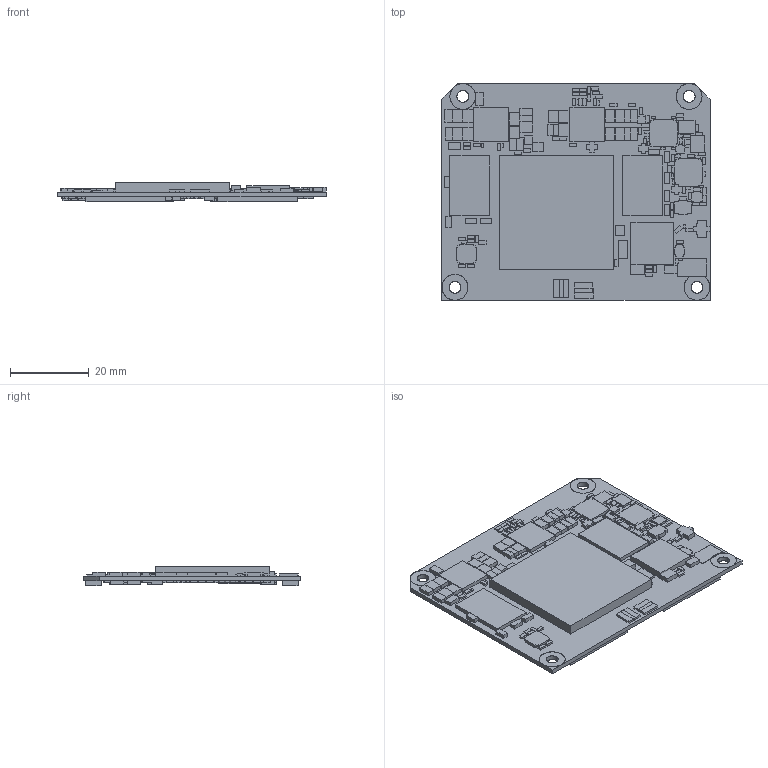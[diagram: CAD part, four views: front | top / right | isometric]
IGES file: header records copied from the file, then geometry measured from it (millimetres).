
Start section: SolidWorks IGES file using analytic representation for surfaces
Global section: file name: D:\VPC0416-4U-F-FINAL1.IGS; native system: SolidWorks 2022; preprocessor: SolidWorks 2022; author: Äãñëí; date: 220404.130914; units: millimetre
Bounding box: 68.01 x 55.01 x 4.97 mm (x, y, z)
Surface area: 16989.3 mm2 (no closed solid volume)
Topology: 0 solids, 0 shells, 3464 faces, 15180 edges, 15180 vertices
Faces by surface type: bspline 3436, revolution 28
